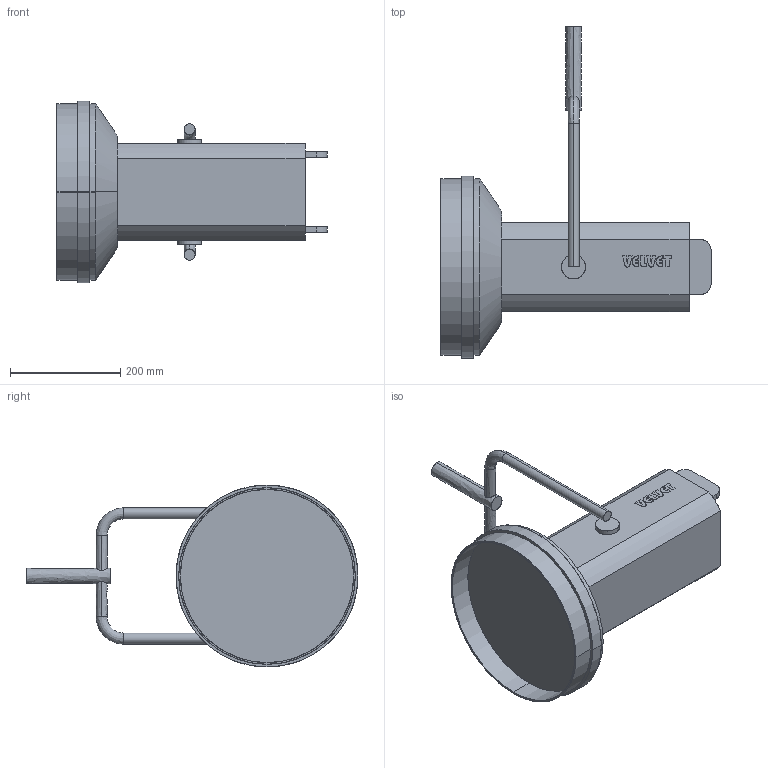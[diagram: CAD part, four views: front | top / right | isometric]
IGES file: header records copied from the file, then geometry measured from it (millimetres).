
Start section: SolidWorks IGES file using analytic representation for surfaces
Global section: file name: C:\Users\Eddy\Desktop\KOSMOS 400.IGS; native system: SolidWorks 2023; preprocessor: SolidWorks 2023; author: Eddy; date: 240715.140842; units: millimetre
Bounding box: 490 x 602 x 330 mm (x, y, z)
Surface area: 581093.8 mm2 (no closed solid volume)
Topology: 0 solids, 0 shells, 293 faces, 4322 edges, 4322 vertices
Faces by surface type: bspline 261, revolution 32
